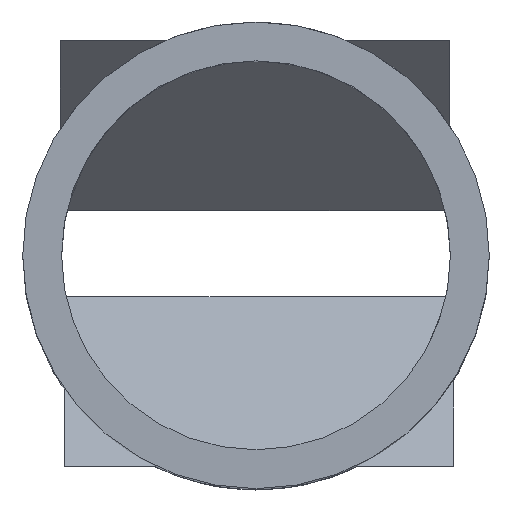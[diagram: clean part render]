
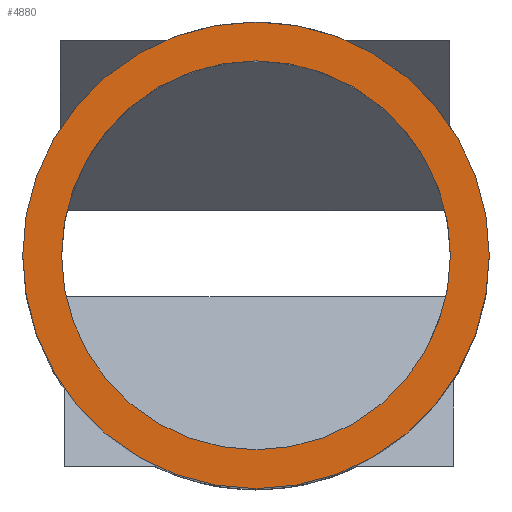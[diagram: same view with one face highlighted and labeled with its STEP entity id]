
A CAD part, top view. The second image highlights one B-rep face of the part: STEP entity #4880.
In plain terms, the highlighted planar face has unit normal (0, 0, 1).
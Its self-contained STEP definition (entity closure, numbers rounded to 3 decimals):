
#4530=CARTESIAN_POINT('',(0.,0.,20.));
#4540=DIRECTION('',(0.,0.,1.));
#4550=DIRECTION('',(1.,0.,0.));
#4560=AXIS2_PLACEMENT_3D('',#4530,#4540,#4550);
#4570=PLANE('',#4560);
#4580=CARTESIAN_POINT('',(36.,45.,20.));
#4590=DIRECTION('',(0.,0.,1.));
#4600=DIRECTION('',(1.,0.,0.));
#4610=AXIS2_PLACEMENT_3D('',#4580,#4590,#4600);
#4620=CIRCLE('',#4610,6.);
#4630=CARTESIAN_POINT('',(42.,45.,20.));
#4640=VERTEX_POINT('',#4630);
#4650=CARTESIAN_POINT('',(30.,45.,20.));
#4660=VERTEX_POINT('',#4650);
#4670=EDGE_CURVE('',#4640,#4660,#4620,.T.);
#4680=ORIENTED_EDGE('',*,*,#4670,.T.);
#4690=EDGE_CURVE('',#4660,#4640,#4620,.T.);
#4700=ORIENTED_EDGE('',*,*,#4690,.T.);
#4710=EDGE_LOOP('',(#4700,#4680));
#4720=FACE_OUTER_BOUND('',#4710,.T.);
#4730=CARTESIAN_POINT('',(36.,45.,20.));
#4740=DIRECTION('',(0.,0.,1.));
#4750=DIRECTION('',(1.,0.,0.));
#4760=AXIS2_PLACEMENT_3D('',#4730,#4740,#4750);
#4770=CIRCLE('',#4760,5.);
#4780=CARTESIAN_POINT('',(41.,45.,20.));
#4790=VERTEX_POINT('',#4780);
#4800=CARTESIAN_POINT('',(31.,45.,20.));
#4810=VERTEX_POINT('',#4800);
#4820=EDGE_CURVE('',#4790,#4810,#4770,.T.);
#4830=ORIENTED_EDGE('',*,*,#4820,.F.);
#4840=EDGE_CURVE('',#4810,#4790,#4770,.T.);
#4850=ORIENTED_EDGE('',*,*,#4840,.F.);
#4860=EDGE_LOOP('',(#4850,#4830));
#4870=FACE_BOUND('',#4860,.T.);
#4880=ADVANCED_FACE('',(#4720,#4870),#4570,.T.);
